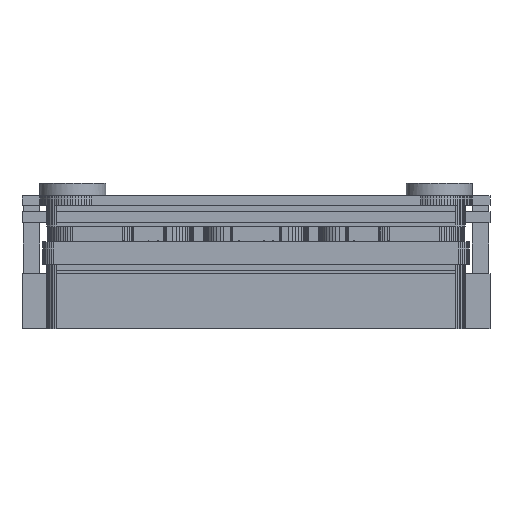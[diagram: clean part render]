
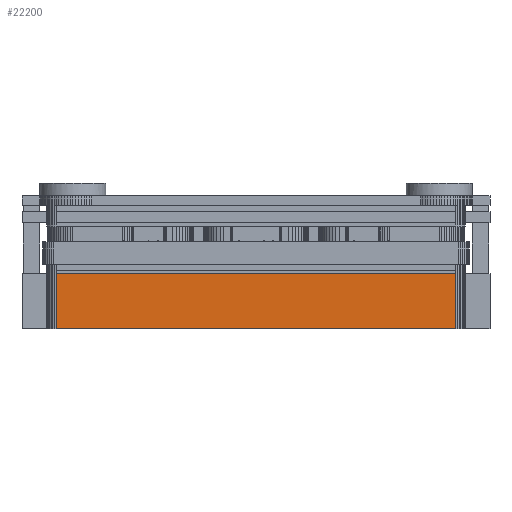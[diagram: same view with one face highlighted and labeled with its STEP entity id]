
A CAD part, left-side view. The second image highlights one B-rep face of the part: STEP entity #22200.
In plain terms, the highlighted planar face has unit normal (-1, 0, 0).
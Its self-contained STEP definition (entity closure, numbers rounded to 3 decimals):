
#266 = PLANE('',#267);
#267 = AXIS2_PLACEMENT_3D('',#268,#269,#270);
#268 = CARTESIAN_POINT('',(0.405,0.,-1.145));
#269 = DIRECTION('',(-0.,-0.,-1.));
#270 = DIRECTION('',(-1.,0.,0.));
#320 = PLANE('',#321);
#321 = AXIS2_PLACEMENT_3D('',#322,#323,#324);
#322 = CARTESIAN_POINT('',(0.405,0.,-3.145));
#323 = DIRECTION('',(-0.,-0.,-1.));
#324 = DIRECTION('',(-1.,0.,0.));
#653 = VERTEX_POINT('',#654);
#654 = CARTESIAN_POINT('',(-7.3,-7.25,-3.145));
#668 = PLANE('',#669);
#669 = AXIS2_PLACEMENT_3D('',#670,#671,#672);
#670 = CARTESIAN_POINT('',(-7.293,-7.318,-3.145));
#671 = DIRECTION('',(-0.995,-0.098,0.));
#672 = DIRECTION('',(-0.098,0.995,0.));
#680 = EDGE_CURVE('',#653,#681,#683,.T.);
#681 = VERTEX_POINT('',#682);
#682 = CARTESIAN_POINT('',(-7.3,7.25,-3.145));
#683 = SURFACE_CURVE('',#684,(#688,#695),.PCURVE_S1.);
#684 = LINE('',#685,#686);
#685 = CARTESIAN_POINT('',(-7.3,-7.25,-3.145));
#686 = VECTOR('',#687,1.);
#687 = DIRECTION('',(0.,1.,0.));
#688 = PCURVE('',#320,#689);
#689 = DEFINITIONAL_REPRESENTATION('',(#690),#694);
#690 = LINE('',#691,#692);
#691 = CARTESIAN_POINT('',(7.705,-7.25));
#692 = VECTOR('',#693,1.);
#693 = DIRECTION('',(0.,1.));
#694 = ( GEOMETRIC_REPRESENTATION_CONTEXT(2) 
PARAMETRIC_REPRESENTATION_CONTEXT() REPRESENTATION_CONTEXT('2D SPACE',''
  ) );
#695 = PCURVE('',#696,#701);
#696 = PLANE('',#697);
#697 = AXIS2_PLACEMENT_3D('',#698,#699,#700);
#698 = CARTESIAN_POINT('',(-7.3,-7.25,-3.145));
#699 = DIRECTION('',(-1.,0.,0.));
#700 = DIRECTION('',(0.,1.,0.));
#701 = DEFINITIONAL_REPRESENTATION('',(#702),#706);
#702 = LINE('',#703,#704);
#703 = CARTESIAN_POINT('',(0.,0.));
#704 = VECTOR('',#705,1.);
#705 = DIRECTION('',(1.,0.));
#706 = ( GEOMETRIC_REPRESENTATION_CONTEXT(2) 
PARAMETRIC_REPRESENTATION_CONTEXT() REPRESENTATION_CONTEXT('2D SPACE',''
  ) );
#724 = PLANE('',#725);
#725 = AXIS2_PLACEMENT_3D('',#726,#727,#728);
#726 = CARTESIAN_POINT('',(-7.3,7.25,-3.145));
#727 = DIRECTION('',(-0.995,0.098,0.));
#728 = DIRECTION('',(0.098,0.995,0.));
#11672 = VERTEX_POINT('',#11673);
#11673 = CARTESIAN_POINT('',(-7.3,-7.25,-1.145));
#11694 = EDGE_CURVE('',#11672,#11695,#11697,.T.);
#11695 = VERTEX_POINT('',#11696);
#11696 = CARTESIAN_POINT('',(-7.3,7.25,-1.145));
#11697 = SURFACE_CURVE('',#11698,(#11702,#11709),.PCURVE_S1.);
#11698 = LINE('',#11699,#11700);
#11699 = CARTESIAN_POINT('',(-7.3,-7.25,-1.145));
#11700 = VECTOR('',#11701,1.);
#11701 = DIRECTION('',(0.,1.,0.));
#11702 = PCURVE('',#266,#11703);
#11703 = DEFINITIONAL_REPRESENTATION('',(#11704),#11708);
#11704 = LINE('',#11705,#11706);
#11705 = CARTESIAN_POINT('',(7.705,-7.25));
#11706 = VECTOR('',#11707,1.);
#11707 = DIRECTION('',(0.,1.));
#11708 = ( GEOMETRIC_REPRESENTATION_CONTEXT(2) 
PARAMETRIC_REPRESENTATION_CONTEXT() REPRESENTATION_CONTEXT('2D SPACE',''
  ) );
#11709 = PCURVE('',#696,#11710);
#11710 = DEFINITIONAL_REPRESENTATION('',(#11711),#11715);
#11711 = LINE('',#11712,#11713);
#11712 = CARTESIAN_POINT('',(0.,-2.));
#11713 = VECTOR('',#11714,1.);
#11714 = DIRECTION('',(1.,0.));
#11715 = ( GEOMETRIC_REPRESENTATION_CONTEXT(2) 
PARAMETRIC_REPRESENTATION_CONTEXT() REPRESENTATION_CONTEXT('2D SPACE',''
  ) );
#22179 = EDGE_CURVE('',#653,#11672,#22180,.T.);
#22180 = SURFACE_CURVE('',#22181,(#22185,#22192),.PCURVE_S1.);
#22181 = LINE('',#22182,#22183);
#22182 = CARTESIAN_POINT('',(-7.3,-7.25,-3.145));
#22183 = VECTOR('',#22184,1.);
#22184 = DIRECTION('',(0.,0.,1.));
#22185 = PCURVE('',#668,#22186);
#22186 = DEFINITIONAL_REPRESENTATION('',(#22187),#22191);
#22187 = LINE('',#22188,#22189);
#22188 = CARTESIAN_POINT('',(0.069,0.));
#22189 = VECTOR('',#22190,1.);
#22190 = DIRECTION('',(0.,-1.));
#22191 = ( GEOMETRIC_REPRESENTATION_CONTEXT(2) 
PARAMETRIC_REPRESENTATION_CONTEXT() REPRESENTATION_CONTEXT('2D SPACE',''
  ) );
#22192 = PCURVE('',#696,#22193);
#22193 = DEFINITIONAL_REPRESENTATION('',(#22194),#22198);
#22194 = LINE('',#22195,#22196);
#22195 = CARTESIAN_POINT('',(0.,0.));
#22196 = VECTOR('',#22197,1.);
#22197 = DIRECTION('',(0.,-1.));
#22198 = ( GEOMETRIC_REPRESENTATION_CONTEXT(2) 
PARAMETRIC_REPRESENTATION_CONTEXT() REPRESENTATION_CONTEXT('2D SPACE',''
  ) );
#22200 = ADVANCED_FACE('',(#22201),#696,.T.);
#22201 = FACE_BOUND('',#22202,.T.);
#22202 = EDGE_LOOP('',(#22203,#22204,#22205,#22226));
#22203 = ORIENTED_EDGE('',*,*,#22179,.T.);
#22204 = ORIENTED_EDGE('',*,*,#11694,.T.);
#22205 = ORIENTED_EDGE('',*,*,#22206,.F.);
#22206 = EDGE_CURVE('',#681,#11695,#22207,.T.);
#22207 = SURFACE_CURVE('',#22208,(#22212,#22219),.PCURVE_S1.);
#22208 = LINE('',#22209,#22210);
#22209 = CARTESIAN_POINT('',(-7.3,7.25,-3.145));
#22210 = VECTOR('',#22211,1.);
#22211 = DIRECTION('',(0.,0.,1.));
#22212 = PCURVE('',#696,#22213);
#22213 = DEFINITIONAL_REPRESENTATION('',(#22214),#22218);
#22214 = LINE('',#22215,#22216);
#22215 = CARTESIAN_POINT('',(14.5,0.));
#22216 = VECTOR('',#22217,1.);
#22217 = DIRECTION('',(0.,-1.));
#22218 = ( GEOMETRIC_REPRESENTATION_CONTEXT(2) 
PARAMETRIC_REPRESENTATION_CONTEXT() REPRESENTATION_CONTEXT('2D SPACE',''
  ) );
#22219 = PCURVE('',#724,#22220);
#22220 = DEFINITIONAL_REPRESENTATION('',(#22221),#22225);
#22221 = LINE('',#22222,#22223);
#22222 = CARTESIAN_POINT('',(0.,0.));
#22223 = VECTOR('',#22224,1.);
#22224 = DIRECTION('',(0.,-1.));
#22225 = ( GEOMETRIC_REPRESENTATION_CONTEXT(2) 
PARAMETRIC_REPRESENTATION_CONTEXT() REPRESENTATION_CONTEXT('2D SPACE',''
  ) );
#22226 = ORIENTED_EDGE('',*,*,#680,.F.);
